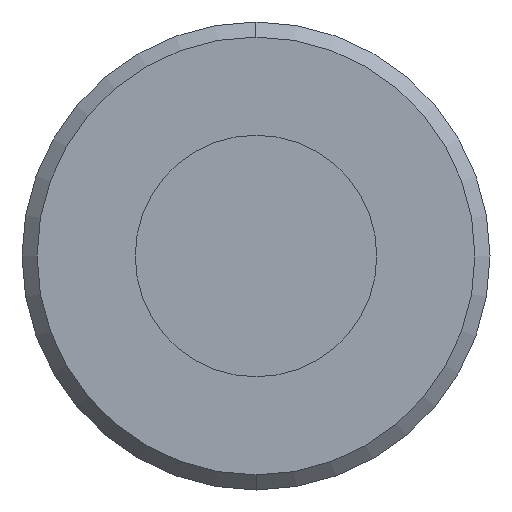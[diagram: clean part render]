
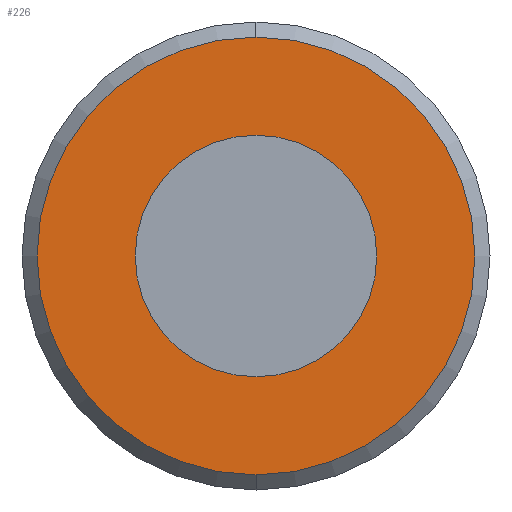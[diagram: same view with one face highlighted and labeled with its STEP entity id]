
A CAD part, left-side view. The second image highlights one B-rep face of the part: STEP entity #226.
In plain terms, the highlighted planar face has unit normal (-1, 0, 0).
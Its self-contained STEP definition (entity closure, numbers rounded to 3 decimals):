
#18 = FACE_BOUND ( 'NONE', #582, .T. ) ;
#28 = ORIENTED_EDGE ( 'NONE', *, *, #326, .F. ) ;
#34 = DIRECTION ( 'NONE',  ( 0., 0., 1. ) ) ;
#87 = CARTESIAN_POINT ( 'NONE',  ( 96.4, 0., 8. ) ) ;
#88 = DIRECTION ( 'NONE',  ( 1., 0., 0. ) ) ;
#97 = PLANE ( 'NONE',  #347 ) ;
#98 = AXIS2_PLACEMENT_3D ( 'NONE', #819, #553, #884 ) ;
#106 = CARTESIAN_POINT ( 'NONE',  ( 96.4, 0., 0. ) ) ;
#129 = AXIS2_PLACEMENT_3D ( 'NONE', #264, #258, #335 ) ;
#130 = EDGE_CURVE ( 'NONE', #133, #287, #503, .T. ) ;
#133 = VERTEX_POINT ( 'NONE', #844 ) ;
#156 = EDGE_LOOP ( 'NONE', ( #842, #28 ) ) ;
#171 = CARTESIAN_POINT ( 'NONE',  ( 96.4, 14.5, 0. ) ) ;
#181 = CARTESIAN_POINT ( 'NONE',  ( 96.4, 0., 14.5 ) ) ;
#226 = ADVANCED_FACE ( 'NONE', ( #18, #601 ), #97, .T. ) ;
#258 = DIRECTION ( 'NONE',  ( 1., 0., 0. ) ) ;
#263 = ORIENTED_EDGE ( 'NONE', *, *, #447, .T. ) ;
#264 = CARTESIAN_POINT ( 'NONE',  ( 96.4, 0., 0. ) ) ;
#287 = VERTEX_POINT ( 'NONE', #181 ) ;
#299 = ORIENTED_EDGE ( 'NONE', *, *, #781, .T. ) ;
#300 = VERTEX_POINT ( 'NONE', #527 ) ;
#323 = DIRECTION ( 'NONE',  ( 0., 0., -1. ) ) ;
#326 = EDGE_CURVE ( 'NONE', #287, #133, #460, .T. ) ;
#328 = CIRCLE ( 'NONE', #98, 8. ) ;
#335 = DIRECTION ( 'NONE',  ( 0., 0., -1. ) ) ;
#347 = AXIS2_PLACEMENT_3D ( 'NONE', #171, #650, #34 ) ;
#430 = DIRECTION ( 'NONE',  ( 0., 0., -1. ) ) ;
#447 = EDGE_CURVE ( 'NONE', #861, #300, #839, .T. ) ;
#460 = CIRCLE ( 'NONE', #838, 14.5 ) ;
#503 = CIRCLE ( 'NONE', #748, 14.5 ) ;
#527 = CARTESIAN_POINT ( 'NONE',  ( 96.4, 0., -8. ) ) ;
#553 = DIRECTION ( 'NONE',  ( 1., 0., 0. ) ) ;
#582 = EDGE_LOOP ( 'NONE', ( #299, #263 ) ) ;
#601 = FACE_OUTER_BOUND ( 'NONE', #156, .T. ) ;
#650 = DIRECTION ( 'NONE',  ( -1., 0., 0. ) ) ;
#696 = CARTESIAN_POINT ( 'NONE',  ( 96.4, 0., 0. ) ) ;
#748 = AXIS2_PLACEMENT_3D ( 'NONE', #696, #88, #430 ) ;
#781 = EDGE_CURVE ( 'NONE', #300, #861, #328, .T. ) ;
#819 = CARTESIAN_POINT ( 'NONE',  ( 96.4, 0., 0. ) ) ;
#838 = AXIS2_PLACEMENT_3D ( 'NONE', #106, #857, #323 ) ;
#839 = CIRCLE ( 'NONE', #129, 8. ) ;
#842 = ORIENTED_EDGE ( 'NONE', *, *, #130, .F. ) ;
#844 = CARTESIAN_POINT ( 'NONE',  ( 96.4, 0., -14.5 ) ) ;
#857 = DIRECTION ( 'NONE',  ( 1., 0., 0. ) ) ;
#861 = VERTEX_POINT ( 'NONE', #87 ) ;
#884 = DIRECTION ( 'NONE',  ( 0., 0., -1. ) ) ;
